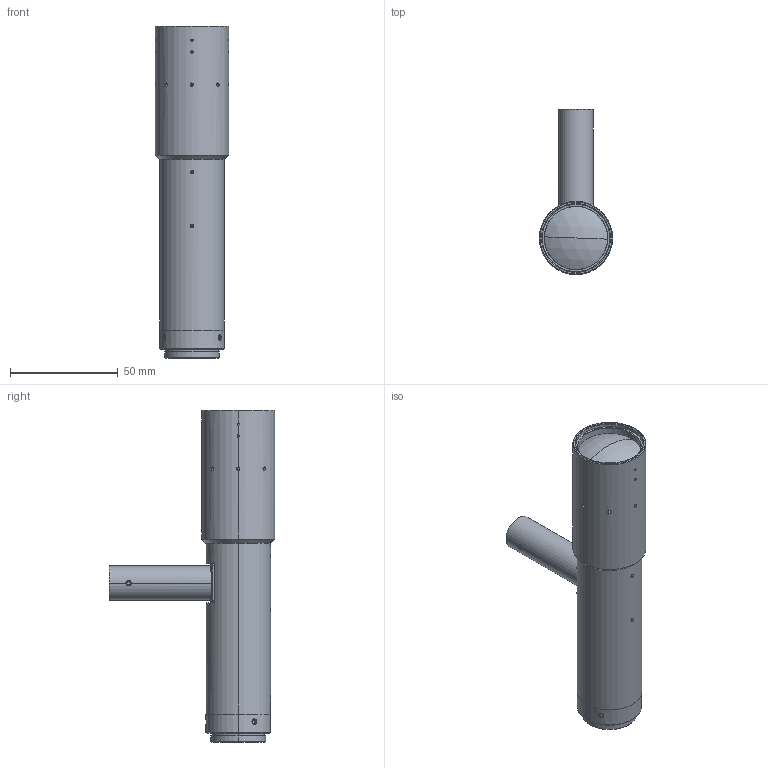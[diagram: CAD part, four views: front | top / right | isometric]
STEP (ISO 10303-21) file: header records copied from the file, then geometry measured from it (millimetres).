
FILE_DESCRIPTION (( 'STEP AP203' ), '1' );
FILE_NAME ('3d_MML6-HR80D-NSW_a001.STEP', '2026-06-03T02:09:42', ( '' ), ( '' ), 'SwSTEP 2.0', 'SolidWorks 2025', '' );
FILE_SCHEMA (( 'CONFIG_CONTROL_DESIGN' ));
Length unit declared in the file: millimetre
Products named in the file (1): 3d_MML6-HR80D-NSW_a001
Bounding box: 34 x 77 x 154.35 mm (x, y, z)
Volume: 122771.9 mm3; surface area: 22828.3 mm2
Topology: 1 solids, 9 shells, 546 faces, 1267 edges, 767 vertices
Faces by surface type: plane 229, cone 172, cylinder 119, torus 16, sphere 10
Entity records: 16634 total; most frequent: CARTESIAN_POINT 4361, DIRECTION 2587, ORIENTED_EDGE 2518, EDGE_CURVE 1259, AXIS2_PLACEMENT_3D 1057, VERTEX_POINT 767, EDGE_LOOP 592, ADVANCED_FACE 546
